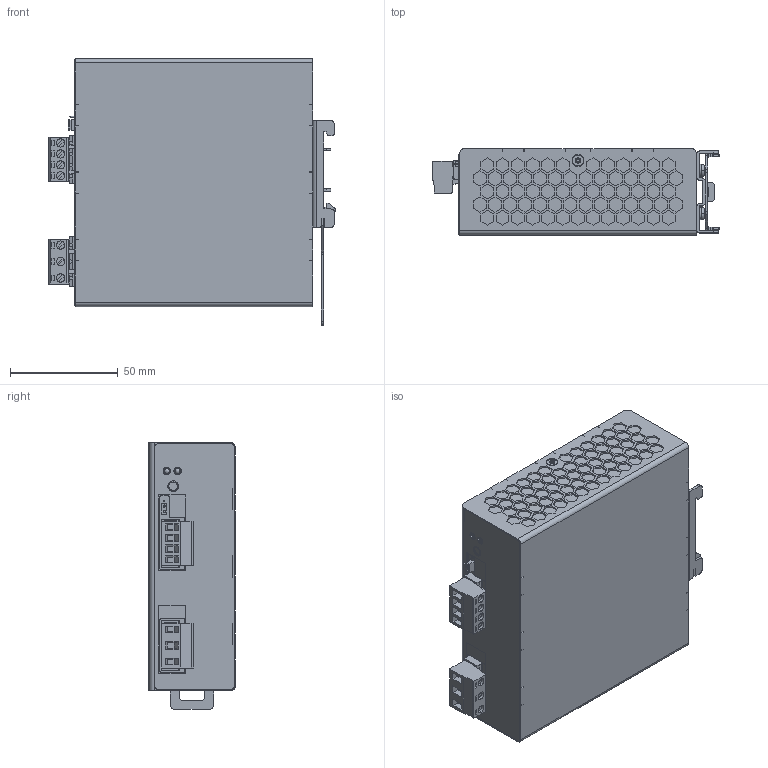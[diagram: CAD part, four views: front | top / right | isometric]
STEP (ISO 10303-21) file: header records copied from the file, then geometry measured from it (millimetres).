
FILE_DESCRIPTION (( 'STEP AP214' ), '1' );
FILE_NAME ('NPSM241_3D_light.STEP', '2016-04-27T10:49:16', ( 'miky' ), ( 'Microsoft' ), 'SwSTEP 2.0', 'SolidWorks 2014', '' );
FILE_SCHEMA (( 'AUTOMOTIVE_DESIGN' ));
Length unit declared in the file: millimetre
Products named in the file (1): NPSM241_3D_light
Bounding box: 132.85 x 40 x 123.7 mm (x, y, z)
Volume: 513952.1 mm3; surface area: 57865.1 mm2
Topology: 1 solids, 11 shells, 2100 faces, 5636 edges, 3705 vertices
Faces by surface type: plane 1667, cylinder 358, cone 61, bspline 8, torus 4, sphere 2
Entity records: 87591 total; most frequent: CARTESIAN_POINT 12409, ORIENTED_EDGE 11260, DIRECTION 10639, EDGE_CURVE 5630, VECTOR 4615, LINE 4615, VERTEX_POINT 3701, AXIS2_PLACEMENT_3D 3012
